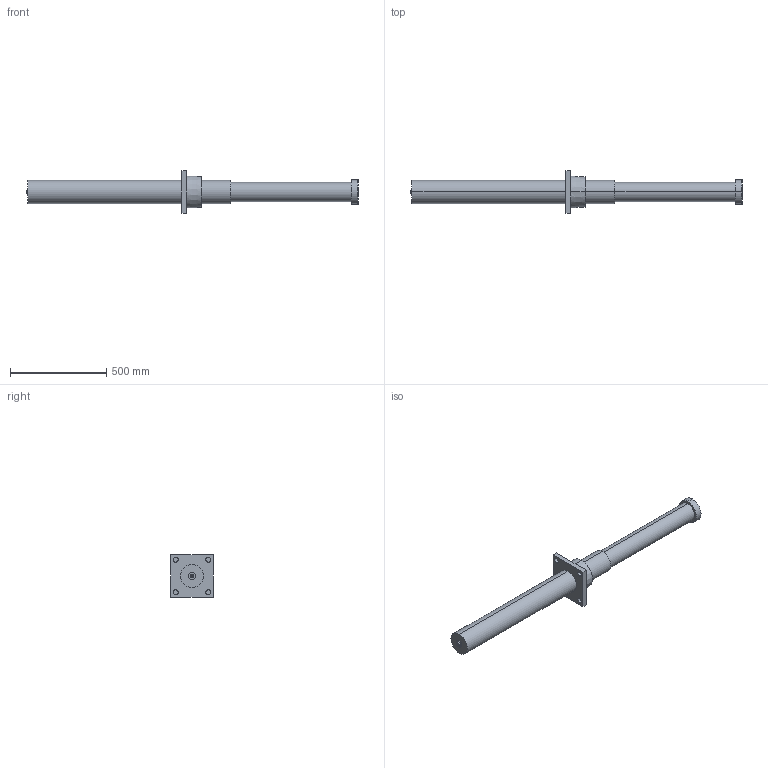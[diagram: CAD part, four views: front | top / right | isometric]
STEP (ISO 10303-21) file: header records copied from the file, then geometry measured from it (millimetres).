
FILE_DESCRIPTION (( 'STEP AP214' ), '1' );
FILE_NAME ('LDH120X600FF.STEP', '2019-01-21T04:59:30', ( 'user' ), ( 'Microsoft' ), 'SwSTEP 2.0', 'SolidWorks 2016', '' );
FILE_SCHEMA (( 'AUTOMOTIVE_DESIGN' ));
Length unit declared in the file: millimetre
Products named in the file (1): LDH120X600FF
Bounding box: 1725 x 220 x 220 mm (x, y, z)
Volume: 18867494.4 mm3; surface area: 745760.5 mm2
Topology: 1 solids, 5 shells, 67 faces, 136 edges, 90 vertices
Faces by surface type: plane 33, cylinder 30, cone 4
Entity records: 1814 total; most frequent: DIRECTION 346, CARTESIAN_POINT 294, ORIENTED_EDGE 272, AXIS2_PLACEMENT_3D 142, EDGE_CURVE 136, VERTEX_POINT 90, EDGE_LOOP 78, CIRCLE 74
